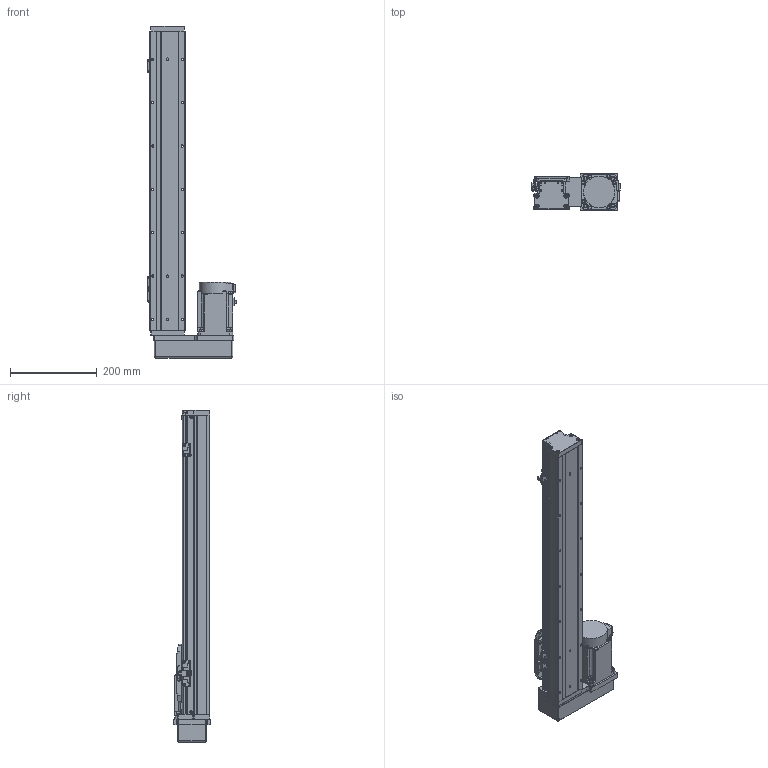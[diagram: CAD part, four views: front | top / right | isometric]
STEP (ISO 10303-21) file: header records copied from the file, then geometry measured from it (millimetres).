
FILE_DESCRIPTION (( 'STEP AP203' ), '1' );
FILE_NAME ('GTH8-500-BR-M75-C4.step', '2023-02-14T02:33:53', ( '微软用户' ), ( '微软中国' ), 'SwSTEP 2.0', 'SolidWorks 2020', '' );
FILE_SCHEMA (( 'CONFIG_CONTROL_DESIGN' ));
Length unit declared in the file: millimetre
Products named in the file (18): CTHA86-035; GTH80-004; GTH80-028; hg-kn73j_-s100; GTH80-006; GTH50-024; GTH8-500-BR-M75-C4; GTH80-013; GTH50-023; GBT 70.3-M3℅6; GBT96.1-2002 3×0.8; GTH80-022; BTH-M3X5X6; GTH80-001_500; GBT 70.1-M3℅6; CTHA86-015-3_CTHA86-015-4; GTH80-003; GBT 70.1-M4×16
Assembly tree (57 placements, depth 2):
  GTH8-500-BR-M75-C4
    GTH80-001_500
    GTH80-003
    GTH80-004
    GTH80-006
    GTH80-013
    GBT 70.3-M3℅6  x4
    GTH80-022
    GBT 70.1-M3℅6  x14
    GBT 70.1-M4×16  x8
    GTH80-028  x2
    GTH50-024  x3
    GTH50-023  x3
    GBT96.1-2002 3×0.8  x6
    BTH-M3X5X6  x8
    CTHA86-015-3_CTHA86-015-4
    CTHA86-035
    hg-kn73j_-s100
Bounding box: 204.7 x 87 x 766 mm (x, y, z)
Volume: 4534601.8 mm3; surface area: 471925.5 mm2
Topology: 59 solids, 59 shells, 2191 faces, 5082 edges, 3112 vertices
Faces by surface type: plane 1153, cylinder 623, cone 243, torus 158, sphere 12, bspline 2
Entity records: 39440 total; most frequent: CARTESIAN_POINT 6623, DIRECTION 6501, ORIENTED_EDGE 5974, EDGE_CURVE 2987, AXIS2_PLACEMENT_3D 2290, VECTOR 1921, LINE 1921, VERTEX_POINT 1887
